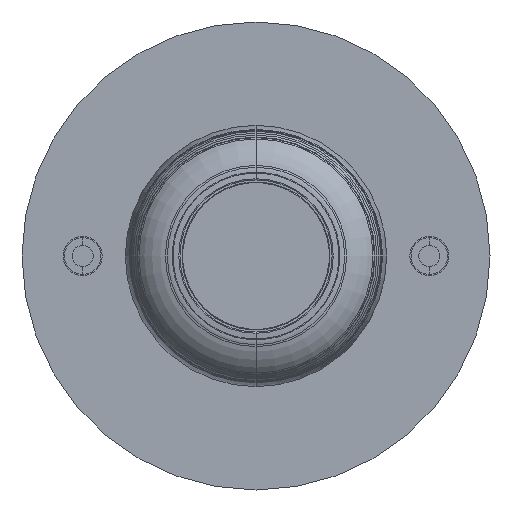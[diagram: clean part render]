
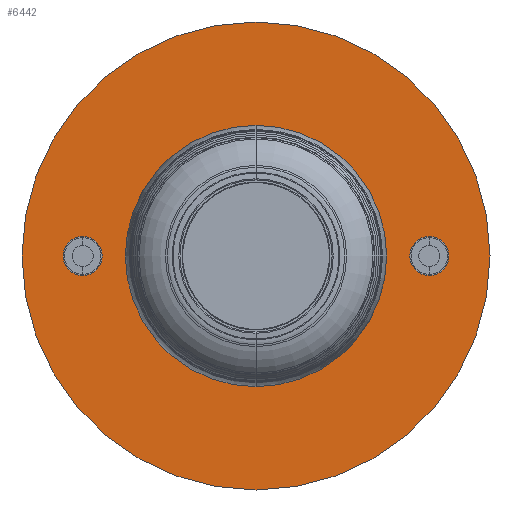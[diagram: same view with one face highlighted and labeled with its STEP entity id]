
A CAD part, front view. The second image highlights one B-rep face of the part: STEP entity #6442.
In plain terms, the highlighted planar face has unit normal (0, -1, 0).
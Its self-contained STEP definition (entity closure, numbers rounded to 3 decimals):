
#4 = CIRCLE ( 'NONE', #6606, 4.7 ) ;
#206 = ORIENTED_EDGE ( 'NONE', *, *, #4592, .F. ) ;
#261 = EDGE_LOOP ( 'NONE', ( #6814, #7084 ) ) ;
#343 = VERTEX_POINT ( 'NONE', #3446 ) ;
#351 = CARTESIAN_POINT ( 'NONE',  ( 44.45, -1., 0. ) ) ;
#362 = AXIS2_PLACEMENT_3D ( 'NONE', #3570, #5800, #7075 ) ;
#363 = DIRECTION ( 'NONE',  ( 0., 1., 0. ) ) ;
#742 = CARTESIAN_POINT ( 'NONE',  ( 44.45, -1., 4.7 ) ) ;
#838 = AXIS2_PLACEMENT_3D ( 'NONE', #4533, #1705, #6713 ) ;
#975 = ORIENTED_EDGE ( 'NONE', *, *, #1990, .T. ) ;
#1026 = CIRCLE ( 'NONE', #5908, 4.7 ) ;
#1117 = EDGE_CURVE ( 'NONE', #6004, #3917, #1026, .T. ) ;
#1339 = AXIS2_PLACEMENT_3D ( 'NONE', #2013, #363, #1538 ) ;
#1361 = PLANE ( 'NONE',  #362 ) ;
#1363 = CARTESIAN_POINT ( 'NONE',  ( 0., -1., 0. ) ) ;
#1389 = DIRECTION ( 'NONE',  ( 0., 0., -1. ) ) ;
#1538 = DIRECTION ( 'NONE',  ( 0., 0., -1. ) ) ;
#1647 = EDGE_LOOP ( 'NONE', ( #3905, #975 ) ) ;
#1705 = DIRECTION ( 'NONE',  ( 0., -1., 0. ) ) ;
#1793 = CIRCLE ( 'NONE', #3539, 5.05 ) ;
#1894 = DIRECTION ( 'NONE',  ( 0., 0., -1. ) ) ;
#1909 = FACE_BOUND ( 'NONE', #261, .T. ) ;
#1927 = DIRECTION ( 'NONE',  ( 0., 1., 0. ) ) ;
#1969 = CARTESIAN_POINT ( 'NONE',  ( 44.45, -1., 0. ) ) ;
#1988 = AXIS2_PLACEMENT_3D ( 'NONE', #3060, #1927, #1389 ) ;
#1990 = EDGE_CURVE ( 'NONE', #343, #5372, #1793, .T. ) ;
#2013 = CARTESIAN_POINT ( 'NONE',  ( 0., -1., 0. ) ) ;
#2040 = DIRECTION ( 'NONE',  ( 0., -1., 0. ) ) ;
#2194 = EDGE_CURVE ( 'NONE', #4709, #7164, #4799, .T. ) ;
#2211 = CARTESIAN_POINT ( 'NONE',  ( -44.45, -1., -4.7 ) ) ;
#2262 = EDGE_LOOP ( 'NONE', ( #5031, #6138 ) ) ;
#2349 = CARTESIAN_POINT ( 'NONE',  ( 0., -1., 0. ) ) ;
#2386 = CARTESIAN_POINT ( 'NONE',  ( 44.45, -1., -4.7 ) ) ;
#2587 = DIRECTION ( 'NONE',  ( 0., 0., -1. ) ) ;
#2796 = CIRCLE ( 'NONE', #4761, 4.7 ) ;
#2850 = DIRECTION ( 'NONE',  ( 0., 1., 0. ) ) ;
#3060 = CARTESIAN_POINT ( 'NONE',  ( 0., -1., 0. ) ) ;
#3378 = CARTESIAN_POINT ( 'NONE',  ( 0., -1., -60. ) ) ;
#3431 = ORIENTED_EDGE ( 'NONE', *, *, #2194, .F. ) ;
#3446 = CARTESIAN_POINT ( 'NONE',  ( 0., -1., -5.05 ) ) ;
#3536 = DIRECTION ( 'NONE',  ( 0., 0., -1. ) ) ;
#3539 = AXIS2_PLACEMENT_3D ( 'NONE', #1363, #2850, #3536 ) ;
#3558 = DIRECTION ( 'NONE',  ( 0., -1., 0. ) ) ;
#3570 = CARTESIAN_POINT ( 'NONE',  ( 0., -1., 0. ) ) ;
#3813 = CARTESIAN_POINT ( 'NONE',  ( -44.45, -1., 4.7 ) ) ;
#3905 = ORIENTED_EDGE ( 'NONE', *, *, #5362, .T. ) ;
#3917 = VERTEX_POINT ( 'NONE', #2211 ) ;
#4108 = FACE_BOUND ( 'NONE', #1647, .T. ) ;
#4305 = CIRCLE ( 'NONE', #5834, 60. ) ;
#4533 = CARTESIAN_POINT ( 'NONE',  ( -44.45, -1., 0. ) ) ;
#4592 = EDGE_CURVE ( 'NONE', #7164, #4709, #4305, .T. ) ;
#4607 = VERTEX_POINT ( 'NONE', #2386 ) ;
#4668 = EDGE_CURVE ( 'NONE', #3917, #6004, #6860, .T. ) ;
#4709 = VERTEX_POINT ( 'NONE', #3378 ) ;
#4761 = AXIS2_PLACEMENT_3D ( 'NONE', #1969, #3558, #1894 ) ;
#4799 = CIRCLE ( 'NONE', #1339, 60. ) ;
#5031 = ORIENTED_EDGE ( 'NONE', *, *, #5273, .F. ) ;
#5073 = CARTESIAN_POINT ( 'NONE',  ( 0., -1., 60. ) ) ;
#5076 = EDGE_CURVE ( 'NONE', #6208, #4607, #4, .T. ) ;
#5135 = DIRECTION ( 'NONE',  ( 0., 1., 0. ) ) ;
#5272 = CARTESIAN_POINT ( 'NONE',  ( 0., -1., 5.05 ) ) ;
#5273 = EDGE_CURVE ( 'NONE', #4607, #6208, #2796, .T. ) ;
#5362 = EDGE_CURVE ( 'NONE', #5372, #343, #7068, .T. ) ;
#5372 = VERTEX_POINT ( 'NONE', #5272 ) ;
#5703 = DIRECTION ( 'NONE',  ( 0., -1., 0. ) ) ;
#5800 = DIRECTION ( 'NONE',  ( 0., -1., 0. ) ) ;
#5834 = AXIS2_PLACEMENT_3D ( 'NONE', #2349, #5135, #6762 ) ;
#5848 = CARTESIAN_POINT ( 'NONE',  ( -44.45, -1., 0. ) ) ;
#5908 = AXIS2_PLACEMENT_3D ( 'NONE', #5848, #5703, #6881 ) ;
#6004 = VERTEX_POINT ( 'NONE', #3813 ) ;
#6138 = ORIENTED_EDGE ( 'NONE', *, *, #5076, .F. ) ;
#6208 = VERTEX_POINT ( 'NONE', #742 ) ;
#6330 = FACE_OUTER_BOUND ( 'NONE', #6608, .T. ) ;
#6442 = ADVANCED_FACE ( 'NONE', ( #6870, #1909, #4108, #6330 ), #1361, .T. ) ;
#6606 = AXIS2_PLACEMENT_3D ( 'NONE', #351, #2040, #2587 ) ;
#6608 = EDGE_LOOP ( 'NONE', ( #206, #3431 ) ) ;
#6713 = DIRECTION ( 'NONE',  ( 0., 0., -1. ) ) ;
#6762 = DIRECTION ( 'NONE',  ( 0., 0., -1. ) ) ;
#6814 = ORIENTED_EDGE ( 'NONE', *, *, #4668, .F. ) ;
#6860 = CIRCLE ( 'NONE', #838, 4.7 ) ;
#6870 = FACE_BOUND ( 'NONE', #2262, .T. ) ;
#6881 = DIRECTION ( 'NONE',  ( 0., 0., -1. ) ) ;
#7068 = CIRCLE ( 'NONE', #1988, 5.05 ) ;
#7075 = DIRECTION ( 'NONE',  ( 0., 0., -1. ) ) ;
#7084 = ORIENTED_EDGE ( 'NONE', *, *, #1117, .F. ) ;
#7164 = VERTEX_POINT ( 'NONE', #5073 ) ;
